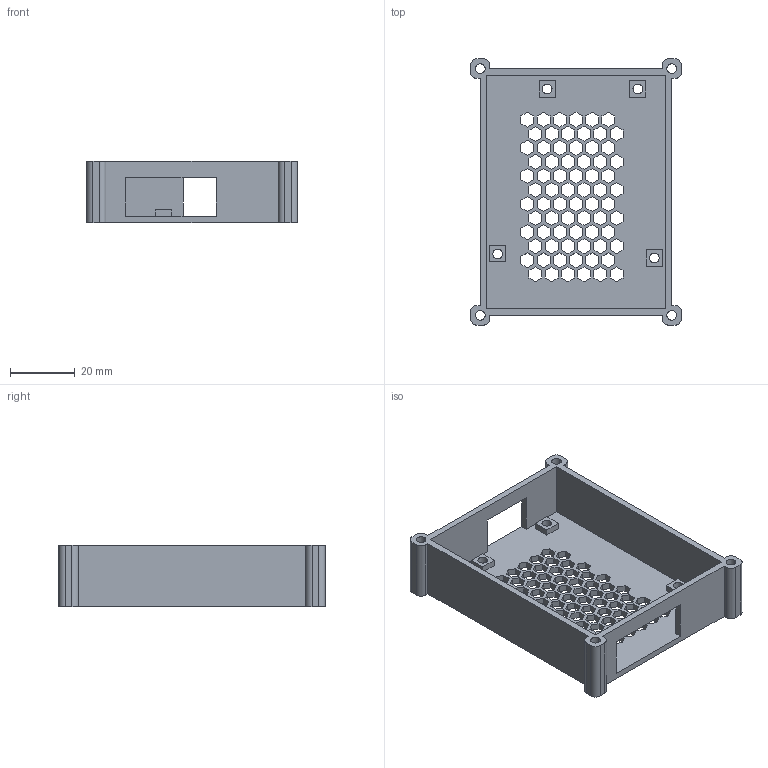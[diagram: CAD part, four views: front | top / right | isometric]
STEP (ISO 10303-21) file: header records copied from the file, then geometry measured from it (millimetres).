
FILE_DESCRIPTION (( 'STEP AP214' ), '1' );
FILE_NAME ('Enclosure.STEP', '2021-10-29T12:35:34', ( '' ), ( '' ), 'SwSTEP 2.0', 'SolidWorks 2019', '' );
FILE_SCHEMA (( 'AUTOMOTIVE_DESIGN' ));
Length unit declared in the file: millimetre
Products named in the file (1): Enclosure
Bounding box: 65 x 82 x 19 mm (x, y, z)
Volume: 16206.7 mm3; surface area: 19437.7 mm2
Topology: 1 solids, 1 shells, 513 faces, 1524 edges, 1016 vertices
Faces by surface type: plane 485, cylinder 28
Entity records: 17236 total; most frequent: CARTESIAN_POINT 3054, ORIENTED_EDGE 3048, DIRECTION 2608, EDGE_CURVE 1524, LINE 1468, VECTOR 1468, VERTEX_POINT 1016, EDGE_LOOP 680
